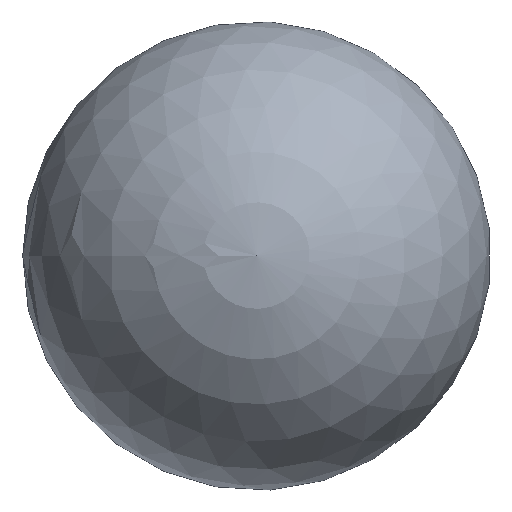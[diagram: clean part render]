
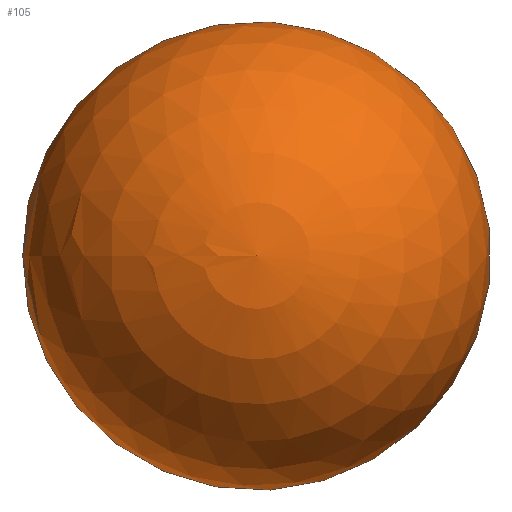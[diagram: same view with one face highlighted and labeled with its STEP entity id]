
A CAD part, top view. The second image highlights one B-rep face of the part: STEP entity #105.
In plain terms, the highlighted spherical face has radius 250 mm.
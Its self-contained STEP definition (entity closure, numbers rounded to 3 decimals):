
#39=FACE_OUTER_BOUND('',#47,.T.);
#47=EDGE_LOOP('',(#88,#89,#90));
#54=CIRCLE('',#133,40.018);
#55=CIRCLE('',#135,250.);
#62=VERTEX_POINT('',#195);
#63=VERTEX_POINT('',#198);
#74=EDGE_CURVE('',#62,#62,#54,.T.);
#75=EDGE_CURVE('',#63,#62,#55,.T.);
#88=ORIENTED_EDGE('',*,*,#74,.T.);
#89=ORIENTED_EDGE('',*,*,#75,.F.);
#90=ORIENTED_EDGE('',*,*,#75,.T.);
#98=SPHERICAL_SURFACE('',#134,250.);
#105=ADVANCED_FACE('',(#39),#98,.T.);
#133=AXIS2_PLACEMENT_3D('',#196,#161,#162);
#134=AXIS2_PLACEMENT_3D('',#197,#163,#164);
#135=AXIS2_PLACEMENT_3D('',#199,#165,#166);
#161=DIRECTION('center_axis',(0.,0.,1.));
#162=DIRECTION('ref_axis',(1.,0.,0.));
#163=DIRECTION('center_axis',(0.,0.,1.));
#164=DIRECTION('ref_axis',(1.,0.,0.));
#165=DIRECTION('center_axis',(0.,-1.,0.));
#166=DIRECTION('ref_axis',(-1.,0.,0.));
#195=CARTESIAN_POINT('',(-40.018,0.,-5.064));
#196=CARTESIAN_POINT('Origin',(0.,0.,-5.064));
#197=CARTESIAN_POINT('Origin',(0.,0.,241.713));
#198=CARTESIAN_POINT('',(0.,0.,491.713));
#199=CARTESIAN_POINT('Origin',(0.,0.,241.713));
